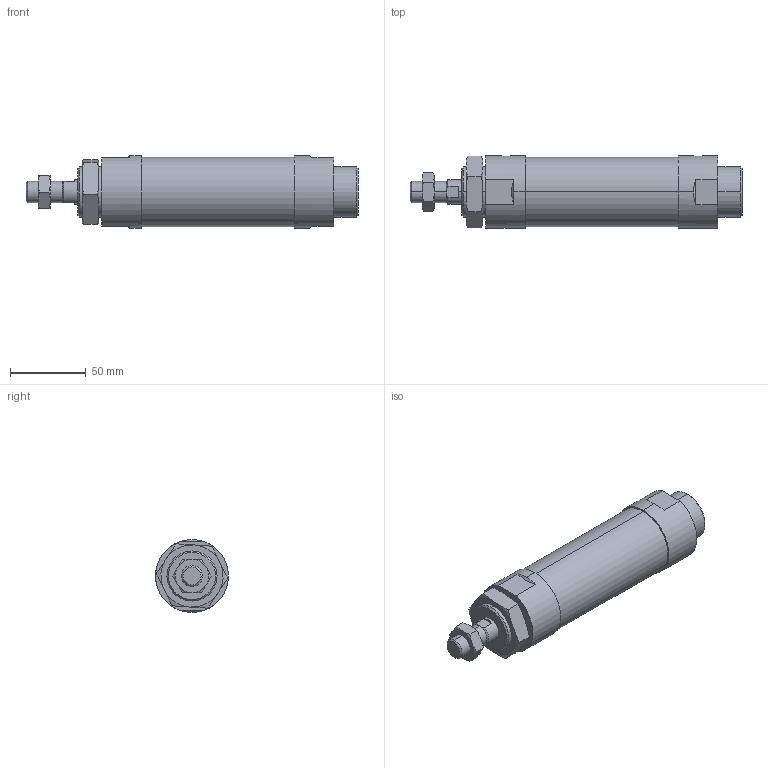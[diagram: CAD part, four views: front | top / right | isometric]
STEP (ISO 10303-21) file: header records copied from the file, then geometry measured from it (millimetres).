
FILE_DESCRIPTION (( 'STEP AP203' ), '1' );
FILE_NAME ('J#2-40-50-N.STEP', '2016-03-08T07:54:29', ( '' ), ( '' ), 'SwSTEP 2.0', 'SolidWorks 2014', '' );
FILE_SCHEMA (( 'CONFIG_CONTROL_DESIGN' ));
Length unit declared in the file: millimetre
Products named in the file (4): J#2-40-50-N; J#2-40-50
Assembly tree (3 placements, depth 2):
  J#2-40-50-N
    J#2-40-50
    (unnamed)
    (unnamed)
Bounding box: 219 x 48 x 48 mm (x, y, z)
Volume: 300914.3 mm3; surface area: 37661.8 mm2
Topology: 3 solids, 3 shells, 94 faces, 210 edges, 125 vertices
Faces by surface type: plane 33, torus 24, cylinder 22, cone 15
Entity records: 3435 total; most frequent: CARTESIAN_POINT 1022, DIRECTION 421, ORIENTED_EDGE 412, EDGE_CURVE 206, AXIS2_PLACEMENT_3D 178, VERTEX_POINT 125, EDGE_LOOP 105, FACE_OUTER_BOUND 94
